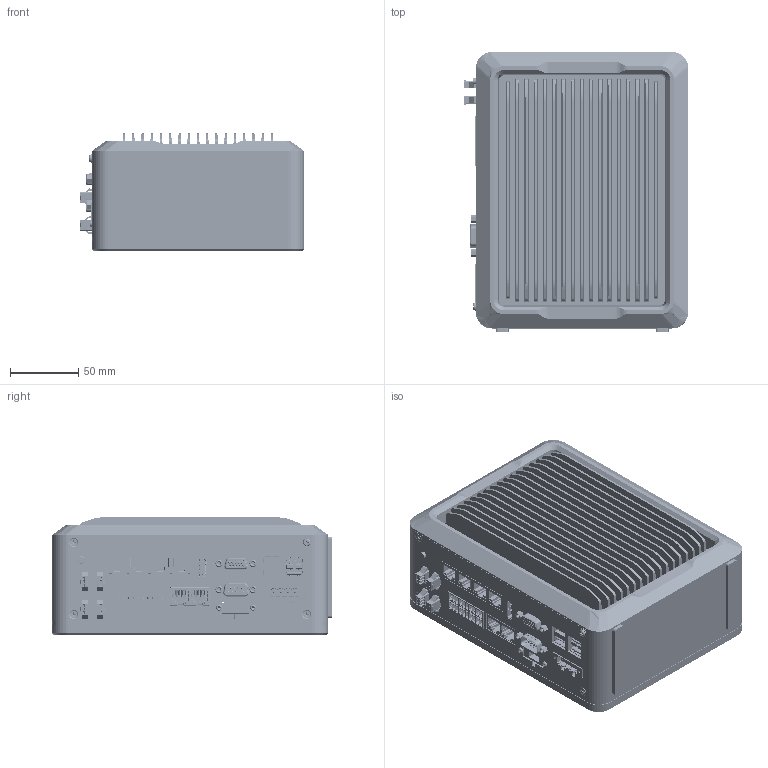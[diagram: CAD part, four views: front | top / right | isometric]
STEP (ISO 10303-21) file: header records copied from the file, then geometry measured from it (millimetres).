
FILE_DESCRIPTION((''),'2;1');
FILE_NAME('MV-SVC2500-01_ASM','2022-12-26T16:42:29',('huguozhe'),(''),'CREO PARAMETRIC BY PTC INC, 2020044','CREO PARAMETRIC BY PTC INC, 2020044','');
FILE_SCHEMA(('AUTOMOTIVE_DESIGN { 1 0 10303 214 1 1 1 1 }'));
Products named in the file (134): DE-13-000891_SOLID_1; DE-13-000891_QUILT_8; DE-13-000891_QUILT_9; DE-13-000891_QUILT_10; DE-13-000891_QUILT_11; DE-13-000891_QUILT_12; DE-13-000891_QUILT_13; DE-13-000891_QUILT_14; DE-13-000891_QUILT_15; DE-13-000891_QUILT_16; DE-13-000891_QUILT_17; DE-13-000891_QUILT_18; DE-13-000891_QUILT_19; DE-13-000891_QUILT_20; DE-13-000891_QUILT_22; DE-13-000891_QUILT_23; DE-13-000891_QUILT_24; DE-13-000891_QUILT_25; DE-13-000891_QUILT_26; DE-13-000891_QUILT_29; DE-13-000891_QUILT_30; DE-13-000891_QUILT_31; DE-13-000891_QUILT_32; DE-13-000891_QUILT_33; DE-17-000326-39455; DE-17-000326-39648; 101400705; 101301300_SOLID_1; 101301300_QUILT_1; 101304772_SOLID_1; 101304772_QUILT_1; 101304772_QUILT_2; 101304772_QUILT_3; 101304772_QUILT_4; 101304772_QUILT_5; 101301666_SOLID_1; 101301666_QUILT_1; 101301626_SOLID_1; 101301626_QUILT_1; 101305416_SOLID_1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
Assembly tree (133 placements, depth 3):
  MV-SVC2500-01_ASM
    VC2000-PLAN-B-TOP-ASSY_ASM
      DE-13-000891_SOLID_1
      DE-13-000891_QUILT_8
      DE-13-000891_QUILT_9
      DE-13-000891_QUILT_10
      DE-13-000891_QUILT_11
      DE-13-000891_QUILT_12
      DE-13-000891_QUILT_13
      DE-13-000891_QUILT_14
      DE-13-000891_QUILT_15
      DE-13-000891_QUILT_16
      DE-13-000891_QUILT_17
      DE-13-000891_QUILT_18
      DE-13-000891_QUILT_19
      DE-13-000891_QUILT_20
      DE-13-000891_QUILT_22
      DE-13-000891_QUILT_23
      DE-13-000891_QUILT_24
      DE-13-000891_QUILT_25
      DE-13-000891_QUILT_26
      DE-13-000891_QUILT_29
      DE-13-000891_QUILT_30
      DE-13-000891_QUILT_31
      DE-13-000891_QUILT_32
      DE-13-000891_QUILT_33
      DE-17-000326-39455
      DE-17-000326-39648
      101400705
      101301300_SOLID_1
      101301300_QUILT_1
      101304772_SOLID_1
      101304772_QUILT_1
      101304772_QUILT_2
      101304772_QUILT_3
      101304772_QUILT_4
      101304772_QUILT_5
      101301666_SOLID_1
      101301666_QUILT_1
      101301626_SOLID_1
      101301626_QUILT_1
      101305416_SOLID_1
      101305416_SOLID_2
      101305416_SOLID_3
      101305416_SOLID_4
      101305416_SOLID_5
      101305416_QUILT_1
      101304905_SOLID_1
      101304905_SOLID_2
      101304905_SOLID_3
      101304905_SOLID_4
      101304905_SOLID_5
      101304905_QUILT_1
      SM-3Y_SOLID_1-335238
      SM-3Y_SOLID_1-338258
      SM-3Y_SOLID_1-341278
      SM-3Y_SOLID_1-344298
      101300786
      DC-IN_2PIN_PITCH5_GPIO_1
      101305687_SOLID_1
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Bounding box: 165.09 x 205.6 x 86 mm (x, y, z)
Volume: 486887.2 mm3; surface area: 431099.2 mm2
Topology: 62 solids, 152 shells, 13632 faces, 37330 edges, 24028 vertices
Faces by surface type: plane 8553, cylinder 3700, cone 587, bspline 338, torus 206, sphere 171, extrusion 77
Entity records: 532173 total; most frequent: CARTESIAN_POINT 145555, ORIENTED_EDGE 73658, DIRECTION 67446, EDGE_CURVE 37061, VECTOR 25764, LINE 25687, VERTEX_POINT 24024, AXIS2_PLACEMENT_3D 20841
